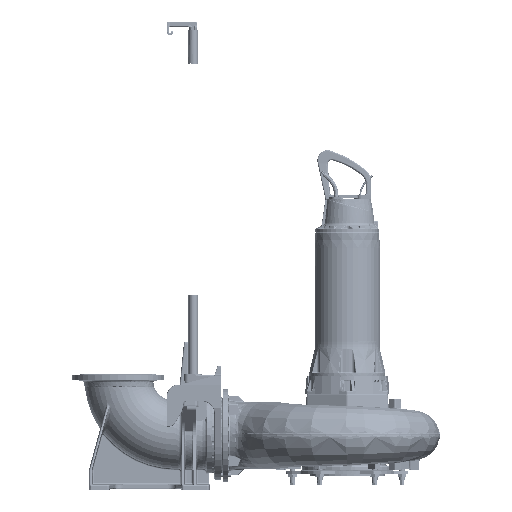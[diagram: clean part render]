
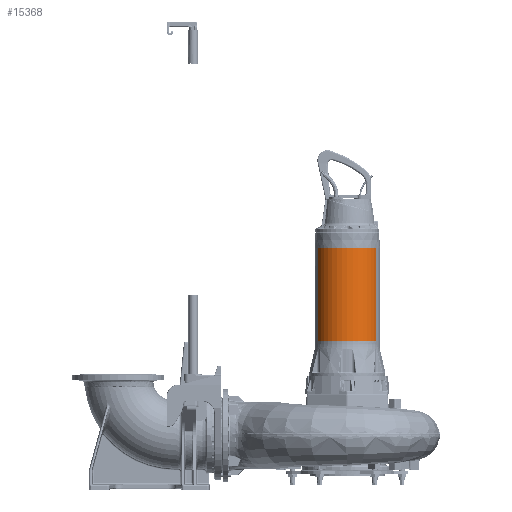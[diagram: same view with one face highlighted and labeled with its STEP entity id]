
A CAD part, top view. The second image highlights one B-rep face of the part: STEP entity #15368.
In plain terms, the highlighted cylindrical face has radius 202 mm (diameter 404 mm), a partial arc.
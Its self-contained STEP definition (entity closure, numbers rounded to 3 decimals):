
#9605 = CARTESIAN_POINT ( 'NONE',  ( 186.109, 819.468, 78.533 ) ) ;
#15368 = ADVANCED_FACE ( 'NONE', ( #495907 ), #243425, .T. ) ;
#25934 = DIRECTION ( 'NONE',  ( 0., -1., 0. ) ) ;
#47442 = CARTESIAN_POINT ( 'NONE',  ( 186.075, 817.381, 78.614 ) ) ;
#49117 = CARTESIAN_POINT ( 'NONE',  ( 186.176, 820.5, 78.374 ) ) ;
#59374 = AXIS2_PLACEMENT_3D ( 'NONE', #455796, #251422, #330251 ) ;
#69034 = EDGE_CURVE ( 'NONE', #394159, #289932, #467653, .T. ) ;
#76496 = ORIENTED_EDGE ( 'NONE', *, *, #127207, .T. ) ;
#98961 = CARTESIAN_POINT ( 'NONE',  ( 186.075, 817.381, 78.614 ) ) ;
#113293 = DIRECTION ( 'NONE',  ( -1., 0., 0. ) ) ;
#122431 = CARTESIAN_POINT ( 'NONE',  ( -186.075, 225.656, 78.614 ) ) ;
#126486 = CARTESIAN_POINT ( 'NONE',  ( -186.075, 818.428, 78.614 ) ) ;
#127207 = EDGE_CURVE ( 'NONE', #366481, #277239, #187855, .T. ) ;
#133534 = AXIS2_PLACEMENT_3D ( 'NONE', #417410, #25934, #113293 ) ;
#148507 = VERTEX_POINT ( 'NONE', #470663 ) ;
#162680 = EDGE_LOOP ( 'NONE', ( #279175, #396960, #198135, #383861, #76496, #282004 ) ) ;
#171035 = LINE ( 'NONE', #421944, #263101 ) ;
#173448 = B_SPLINE_CURVE_WITH_KNOTS ( 'NONE', 3,
 ( #397798, #280997, #126486, #354972 ),
 .UNSPECIFIED., .F., .F.,
 ( 4, 4 ),
 ( 0., 0.003 ),
 .UNSPECIFIED. ) ;
#182162 = DIRECTION ( 'NONE',  ( 0., -1., 0. ) ) ;
#186769 = DIRECTION ( 'NONE',  ( 0., -1., 0. ) ) ;
#187855 = B_SPLINE_CURVE_WITH_KNOTS ( 'NONE', 3,
 ( #47442, #366619, #9605, #49117 ),
 .UNSPECIFIED., .F., .F.,
 ( 4, 4 ),
 ( 0., 0.003 ),
 .UNSPECIFIED. ) ;
#189008 = DIRECTION ( 'NONE',  ( 0., 1., 0. ) ) ;
#198135 = ORIENTED_EDGE ( 'NONE', *, *, #69034, .F. ) ;
#224340 = EDGE_CURVE ( 'NONE', #236779, #289932, #171035, .T. ) ;
#236779 = VERTEX_POINT ( 'NONE', #494942 ) ;
#243425 = CYLINDRICAL_SURFACE ( 'NONE', #133534, 202. ) ;
#248746 = AXIS2_PLACEMENT_3D ( 'NONE', #501511, #182162, #382822 ) ;
#251422 = DIRECTION ( 'NONE',  ( 0., -1., 0. ) ) ;
#263101 = VECTOR ( 'NONE', #186769, 1000. ) ;
#270695 = EDGE_CURVE ( 'NONE', #148507, #236779, #173448, .T. ) ;
#277239 = VERTEX_POINT ( 'NONE', #441635 ) ;
#278342 = EDGE_CURVE ( 'NONE', #394159, #366481, #437265, .T. ) ;
#279175 = ORIENTED_EDGE ( 'NONE', *, *, #270695, .T. ) ;
#280997 = CARTESIAN_POINT ( 'NONE',  ( -186.109, 819.468, 78.533 ) ) ;
#282004 = ORIENTED_EDGE ( 'NONE', *, *, #375379, .T. ) ;
#289879 = VECTOR ( 'NONE', #189008, 1000. ) ;
#289932 = VERTEX_POINT ( 'NONE', #122431 ) ;
#330251 = DIRECTION ( 'NONE',  ( -1., 0., 0. ) ) ;
#354972 = CARTESIAN_POINT ( 'NONE',  ( -186.075, 817.381, 78.614 ) ) ;
#366481 = VERTEX_POINT ( 'NONE', #98961 ) ;
#366619 = CARTESIAN_POINT ( 'NONE',  ( 186.075, 818.428, 78.614 ) ) ;
#375379 = EDGE_CURVE ( 'NONE', #277239, #148507, #413736, .T. ) ;
#382822 = DIRECTION ( 'NONE',  ( -1., 0., 0. ) ) ;
#383861 = ORIENTED_EDGE ( 'NONE', *, *, #278342, .T. ) ;
#394159 = VERTEX_POINT ( 'NONE', #405192 ) ;
#396960 = ORIENTED_EDGE ( 'NONE', *, *, #224340, .T. ) ;
#397798 = CARTESIAN_POINT ( 'NONE',  ( -186.176, 820.5, 78.374 ) ) ;
#405192 = CARTESIAN_POINT ( 'NONE',  ( 186.075, 225.656, 78.614 ) ) ;
#413736 = CIRCLE ( 'NONE', #59374, 202. ) ;
#417410 = CARTESIAN_POINT ( 'NONE',  ( 0., -106.33, 0. ) ) ;
#419163 = CARTESIAN_POINT ( 'NONE',  ( 186.075, -106.33, 78.614 ) ) ;
#421944 = CARTESIAN_POINT ( 'NONE',  ( -186.075, -106.33, 78.614 ) ) ;
#437265 = LINE ( 'NONE', #419163, #289879 ) ;
#441635 = CARTESIAN_POINT ( 'NONE',  ( 186.176, 820.5, 78.374 ) ) ;
#455796 = CARTESIAN_POINT ( 'NONE',  ( 0., 820.5, 0. ) ) ;
#467653 = CIRCLE ( 'NONE', #248746, 202. ) ;
#470663 = CARTESIAN_POINT ( 'NONE',  ( -186.176, 820.5, 78.374 ) ) ;
#494942 = CARTESIAN_POINT ( 'NONE',  ( -186.075, 817.381, 78.614 ) ) ;
#495907 = FACE_OUTER_BOUND ( 'NONE', #162680, .T. ) ;
#501511 = CARTESIAN_POINT ( 'NONE',  ( 0., 225.656, 0. ) ) ;
